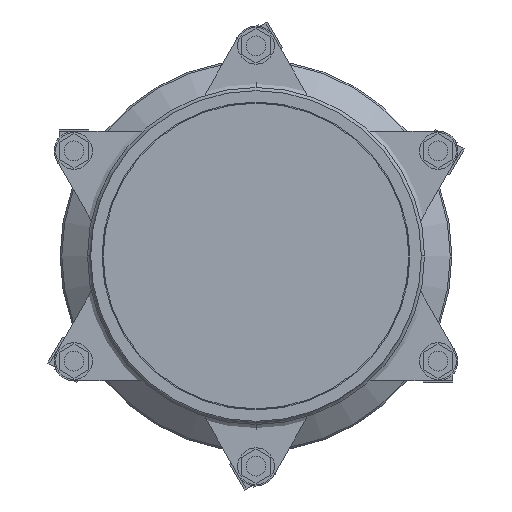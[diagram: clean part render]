
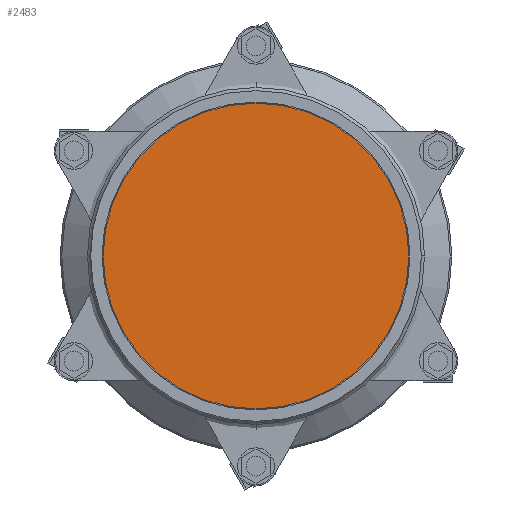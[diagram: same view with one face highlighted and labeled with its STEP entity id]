
A CAD part, left-side view. The second image highlights one B-rep face of the part: STEP entity #2483.
In plain terms, the highlighted planar face has unit normal (-1, 0, 0).
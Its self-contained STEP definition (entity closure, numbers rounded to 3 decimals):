
#2483=ADVANCED_FACE('',(#4881),#4882,.T.);
#4881=FACE_OUTER_BOUND('',#7823,.T.);
#4882=PLANE('',#7824);
#7823=EDGE_LOOP('',(#12349,#12350));
#7824=AXIS2_PLACEMENT_3D('',#12351,#12352,#12353);
#12349=ORIENTED_EDGE('',*,*,#17537,.T.);
#12350=ORIENTED_EDGE('',*,*,#17538,.T.);
#12351=CARTESIAN_POINT('',(187.5,-320.436,185.004));
#12352=DIRECTION('',(-1.0,0.0,0.));
#12353=DIRECTION('',(0.,0.0,1.0));
#17537=EDGE_CURVE('',#21158,#21159,#21160,.T.);
#17538=EDGE_CURVE('',#21159,#21158,#21161,.T.);
#21158=VERTEX_POINT('',#25897);
#21159=VERTEX_POINT('',#25898);
#21160=CIRCLE('',#25899,167.0);
#21161=CIRCLE('',#25900,167.0);
#25897=CARTESIAN_POINT('',(187.5,-320.436,18.004));
#25898=CARTESIAN_POINT('',(187.5,-320.436,352.004));
#25899=AXIS2_PLACEMENT_3D('',#29305,#29306,#29307);
#25900=AXIS2_PLACEMENT_3D('',#29308,#29309,#29310);
#29305=CARTESIAN_POINT('',(187.5,-320.436,185.004));
#29306=DIRECTION('',(-1.0,0.0,0.));
#29307=DIRECTION('',(0.,0.0,-1.0));
#29308=CARTESIAN_POINT('',(187.5,-320.436,185.004));
#29309=DIRECTION('',(-1.0,0.0,0.));
#29310=DIRECTION('',(0.,0.0,-1.0));
